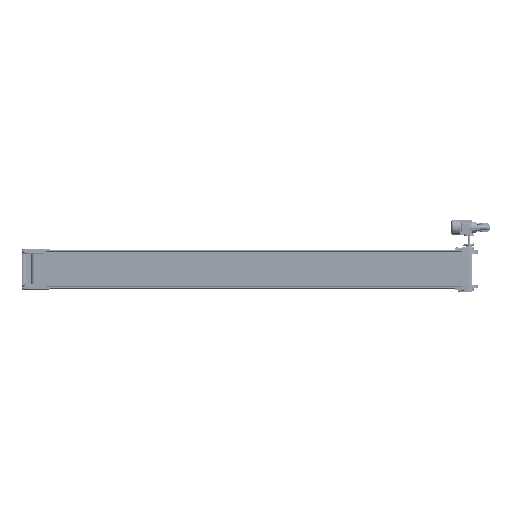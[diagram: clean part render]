
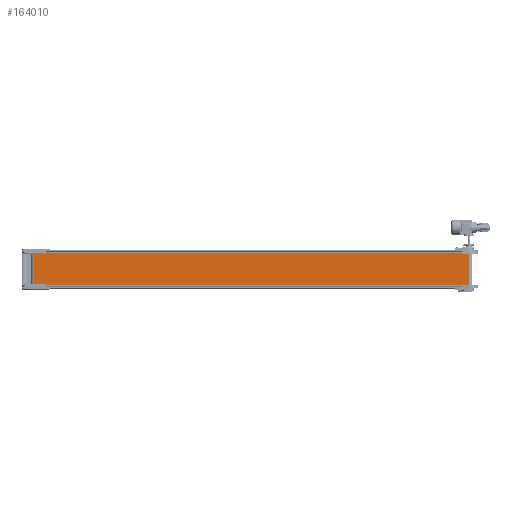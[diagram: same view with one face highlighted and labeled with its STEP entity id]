
A CAD part, front view. The second image highlights one B-rep face of the part: STEP entity #164010.
In plain terms, the highlighted planar face has unit normal (0, -1, 0).
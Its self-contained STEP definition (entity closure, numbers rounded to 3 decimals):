
#4107 = VERTEX_POINT ( 'NONE', #67733 ) ;
#16657 = LINE ( 'NONE', #34194, #57288 ) ;
#24528 = DIRECTION ( 'NONE',  ( 0., 1., 0. ) ) ;
#28314 = LINE ( 'NONE', #132770, #178366 ) ;
#34194 = CARTESIAN_POINT ( 'NONE',  ( -1750., -27., 146.5 ) ) ;
#35902 = LINE ( 'NONE', #38212, #135848 ) ;
#38212 = CARTESIAN_POINT ( 'NONE',  ( -1750., -27., 146.5 ) ) ;
#42112 = FACE_OUTER_BOUND ( 'NONE', #202359, .T. ) ;
#52130 = AXIS2_PLACEMENT_3D ( 'NONE', #185221, #24528, #117966 ) ;
#57288 = VECTOR ( 'NONE', #106914, 1000. ) ;
#63837 = VERTEX_POINT ( 'NONE', #209701 ) ;
#67733 = CARTESIAN_POINT ( 'NONE',  ( -1750., -27., -146.5 ) ) ;
#85577 = CARTESIAN_POINT ( 'NONE',  ( 1750., -27., 146.5 ) ) ;
#86597 = EDGE_CURVE ( 'NONE', #141048, #217854, #105478, .T. ) ;
#104863 = ORIENTED_EDGE ( 'NONE', *, *, #168853, .F. ) ;
#105478 = LINE ( 'NONE', #85577, #128503 ) ;
#106914 = DIRECTION ( 'NONE',  ( 0., 0., -1. ) ) ;
#110208 = PLANE ( 'NONE',  #52130 ) ;
#117966 = DIRECTION ( 'NONE',  ( 0., 0., 1. ) ) ;
#127073 = CARTESIAN_POINT ( 'NONE',  ( 1750., -27., -146.5 ) ) ;
#128503 = VECTOR ( 'NONE', #142995, 1000. ) ;
#130936 = ORIENTED_EDGE ( 'NONE', *, *, #185732, .T. ) ;
#132770 = CARTESIAN_POINT ( 'NONE',  ( -1750., -27., -146.5 ) ) ;
#135848 = VECTOR ( 'NONE', #183651, 1000. ) ;
#141048 = VERTEX_POINT ( 'NONE', #219293 ) ;
#142995 = DIRECTION ( 'NONE',  ( 0., 0., -1. ) ) ;
#151480 = DIRECTION ( 'NONE',  ( 1., 0., 0. ) ) ;
#164010 = ADVANCED_FACE ( 'NONE', ( #42112 ), #110208, .F. ) ;
#168853 = EDGE_CURVE ( 'NONE', #63837, #141048, #35902, .T. ) ;
#178366 = VECTOR ( 'NONE', #151480, 1000. ) ;
#181362 = ORIENTED_EDGE ( 'NONE', *, *, #216765, .T. ) ;
#183651 = DIRECTION ( 'NONE',  ( 1., 0., 0. ) ) ;
#185221 = CARTESIAN_POINT ( 'NONE',  ( -1750., -27., 146.5 ) ) ;
#185732 = EDGE_CURVE ( 'NONE', #63837, #4107, #16657, .T. ) ;
#188004 = ORIENTED_EDGE ( 'NONE', *, *, #86597, .F. ) ;
#202359 = EDGE_LOOP ( 'NONE', ( #181362, #188004, #104863, #130936 ) ) ;
#209701 = CARTESIAN_POINT ( 'NONE',  ( -1750., -27., 146.5 ) ) ;
#216765 = EDGE_CURVE ( 'NONE', #4107, #217854, #28314, .T. ) ;
#217854 = VERTEX_POINT ( 'NONE', #127073 ) ;
#219293 = CARTESIAN_POINT ( 'NONE',  ( 1750., -27., 146.5 ) ) ;
